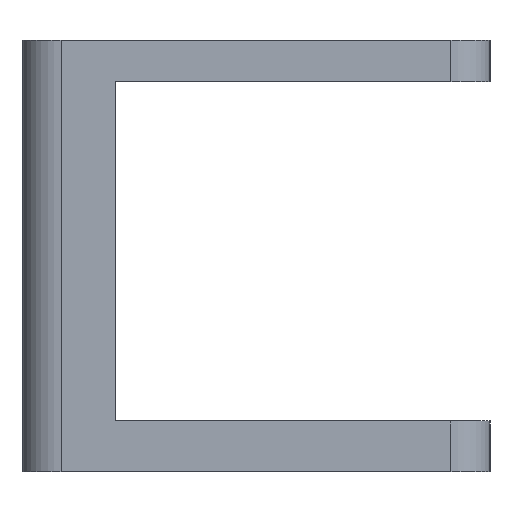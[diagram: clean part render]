
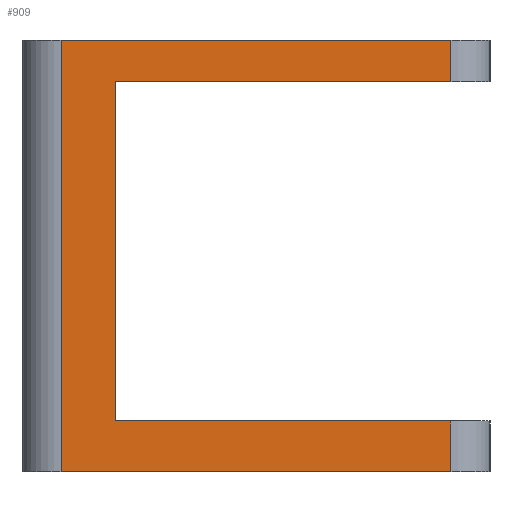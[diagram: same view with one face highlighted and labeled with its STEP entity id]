
A CAD part, left-side view. The second image highlights one B-rep face of the part: STEP entity #909.
In plain terms, the highlighted planar face has unit normal (-1, 0, 0).
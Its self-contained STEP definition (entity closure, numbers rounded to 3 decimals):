
#24=LINE('',#1463,#64);
#28=LINE('',#1479,#68);
#33=LINE('',#1493,#73);
#36=LINE('',#1499,#76);
#52=LINE('',#1545,#92);
#53=LINE('',#1548,#93);
#54=LINE('',#1549,#94);
#55=LINE('',#1550,#95);
#64=VECTOR('',#1215,5.3);
#68=VECTOR('',#1231,50.);
#73=VECTOR('',#1242,43.);
#76=VECTOR('',#1247,43.5);
#92=VECTOR('',#1295,6.5);
#93=VECTOR('',#1298,50.);
#94=VECTOR('',#1299,43.);
#95=VECTOR('',#1300,55.3);
#116=PLANE('',#1029);
#237=FACE_OUTER_BOUND('',#349,.T.);
#349=EDGE_LOOP('',(#785,#786,#787,#788,#789,#790,#791,#792));
#484=VERTEX_POINT('',#1459);
#485=VERTEX_POINT('',#1461);
#491=VERTEX_POINT('',#1477);
#496=VERTEX_POINT('',#1489);
#499=VERTEX_POINT('',#1496);
#512=VERTEX_POINT('',#1541);
#513=VERTEX_POINT('',#1543);
#514=VERTEX_POINT('',#1547);
#572=EDGE_CURVE('',#484,#485,#24,.T.);
#580=EDGE_CURVE('',#491,#485,#28,.T.);
#587=EDGE_CURVE('',#496,#484,#33,.T.);
#590=EDGE_CURVE('',#499,#496,#36,.T.);
#613=EDGE_CURVE('',#512,#513,#52,.T.);
#614=EDGE_CURVE('',#514,#512,#53,.T.);
#615=EDGE_CURVE('',#499,#513,#54,.T.);
#616=EDGE_CURVE('',#514,#491,#55,.T.);
#785=ORIENTED_EDGE('',*,*,#614,.T.);
#786=ORIENTED_EDGE('',*,*,#613,.T.);
#787=ORIENTED_EDGE('',*,*,#615,.F.);
#788=ORIENTED_EDGE('',*,*,#590,.T.);
#789=ORIENTED_EDGE('',*,*,#587,.T.);
#790=ORIENTED_EDGE('',*,*,#572,.T.);
#791=ORIENTED_EDGE('',*,*,#580,.F.);
#792=ORIENTED_EDGE('',*,*,#616,.F.);
#909=ADVANCED_FACE('',(#237),#116,.T.);
#1029=AXIS2_PLACEMENT_3D('',#1546,#1296,#1297);
#1215=DIRECTION('',(0.,0.,1.));
#1231=DIRECTION('',(0.,-1.,0.));
#1242=DIRECTION('',(0.,-1.,0.));
#1247=DIRECTION('',(0.,0.,1.));
#1295=DIRECTION('',(0.,0.,1.));
#1296=DIRECTION('center_axis',(-1.,0.,0.));
#1297=DIRECTION('ref_axis',(0.,-1.,0.));
#1298=DIRECTION('',(0.,-1.,0.));
#1299=DIRECTION('',(0.,-1.,0.));
#1300=DIRECTION('',(0.,0.,1.));
#1459=CARTESIAN_POINT('',(-100.721,-25.,50.));
#1461=CARTESIAN_POINT('',(-100.721,-25.,55.3));
#1463=CARTESIAN_POINT('',(-100.721,-25.,50.));
#1477=CARTESIAN_POINT('',(-100.721,25.,55.3));
#1479=CARTESIAN_POINT('',(-100.721,25.,55.3));
#1489=CARTESIAN_POINT('',(-100.721,18.,50.));
#1493=CARTESIAN_POINT('',(-100.721,25.,50.));
#1496=CARTESIAN_POINT('',(-100.721,18.,6.5));
#1499=CARTESIAN_POINT('',(-100.721,18.,6.5));
#1541=CARTESIAN_POINT('',(-100.721,-25.,0.));
#1543=CARTESIAN_POINT('',(-100.721,-25.,6.5));
#1545=CARTESIAN_POINT('',(-100.721,-25.,0.));
#1546=CARTESIAN_POINT('Origin',(-100.721,25.,0.));
#1547=CARTESIAN_POINT('',(-100.721,25.,0.));
#1548=CARTESIAN_POINT('',(-100.721,25.,0.));
#1549=CARTESIAN_POINT('',(-100.721,25.,6.5));
#1550=CARTESIAN_POINT('',(-100.721,25.,0.));
